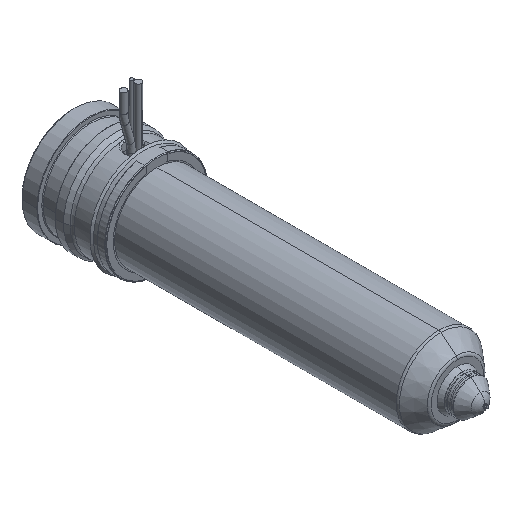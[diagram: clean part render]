
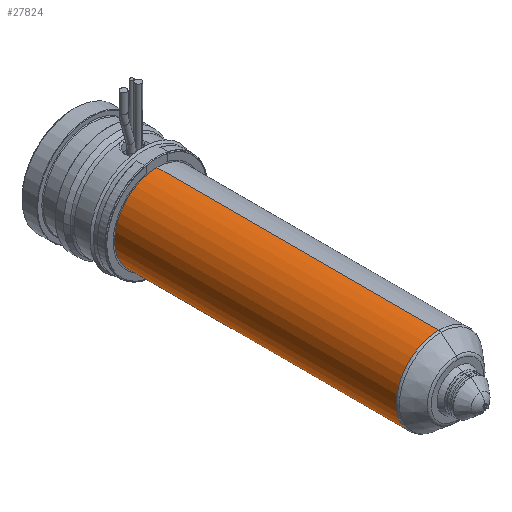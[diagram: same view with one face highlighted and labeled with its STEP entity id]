
A CAD part, isometric view. The second image highlights one B-rep face of the part: STEP entity #27824.
In plain terms, the highlighted cylindrical face has radius 12 mm (diameter 24 mm), a partial arc.
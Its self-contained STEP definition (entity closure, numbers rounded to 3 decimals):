
#27213=CARTESIAN_POINT('',(0.,-103.736,0.));
#27214=DIRECTION('',(0.,-1.,0.));
#27215=DIRECTION('',(0.,0.,1.));
#27216=AXIS2_PLACEMENT_3D('',#27213,#27214,#27215);
#27221=CARTESIAN_POINT('',(0.,-24.,0.));
#27222=DIRECTION('',(0.,1.,0.));
#27223=DIRECTION('',(0.,0.,-1.));
#27224=AXIS2_PLACEMENT_3D('',#27221,#27222,#27223);
#27229=DIRECTION('',(0.,1.,0.));
#27230=VECTOR('',#27229,79.736);
#27231=CARTESIAN_POINT('',(0.,-103.736,12.));
#27232=LINE('',#27231,#27230);
#27244=DIRECTION('',(0.,1.,0.));
#27245=VECTOR('',#27244,79.736);
#27246=CARTESIAN_POINT('',(0.,-103.736,-12.));
#27247=LINE('',#27246,#27245);
#27429=CARTESIAN_POINT('',(0.,-103.736,12.));
#27430=CARTESIAN_POINT('',(0.,-24.,12.));
#27431=VERTEX_POINT('',#27429);
#27432=VERTEX_POINT('',#27430);
#27433=CARTESIAN_POINT('',(0.,-103.736,-12.));
#27434=CARTESIAN_POINT('',(0.,-24.,-12.));
#27435=VERTEX_POINT('',#27433);
#27436=VERTEX_POINT('',#27434);
#27810=CARTESIAN_POINT('',(0.,-15.125,0.));
#27811=DIRECTION('',(0.,-1.,0.));
#27812=DIRECTION('',(0.,0.,1.));
#27813=AXIS2_PLACEMENT_3D('',#27810,#27811,#27812);
#27814=CYLINDRICAL_SURFACE('',#27813,12.);
#27816=ORIENTED_EDGE('',*,*,#27815,.F.);
#27817=ORIENTED_EDGE('',*,*,#27805,.T.);
#27819=ORIENTED_EDGE('',*,*,#27818,.T.);
#27821=ORIENTED_EDGE('',*,*,#27820,.T.);
#27822=EDGE_LOOP('',(#27816,#27817,#27819,#27821));
#27823=FACE_OUTER_BOUND('',#27822,.F.);
#27824=ADVANCED_FACE('',(#27823),#27814,.T.);
#27217=CIRCLE('',#27216,12.);
#27225=CIRCLE('',#27224,12.);
#27805=EDGE_CURVE('',#27431,#27435,#27217,.T.);
#27815=EDGE_CURVE('',#27431,#27432,#27232,.T.);
#27818=EDGE_CURVE('',#27435,#27436,#27247,.T.);
#27820=EDGE_CURVE('',#27436,#27432,#27225,.T.);
